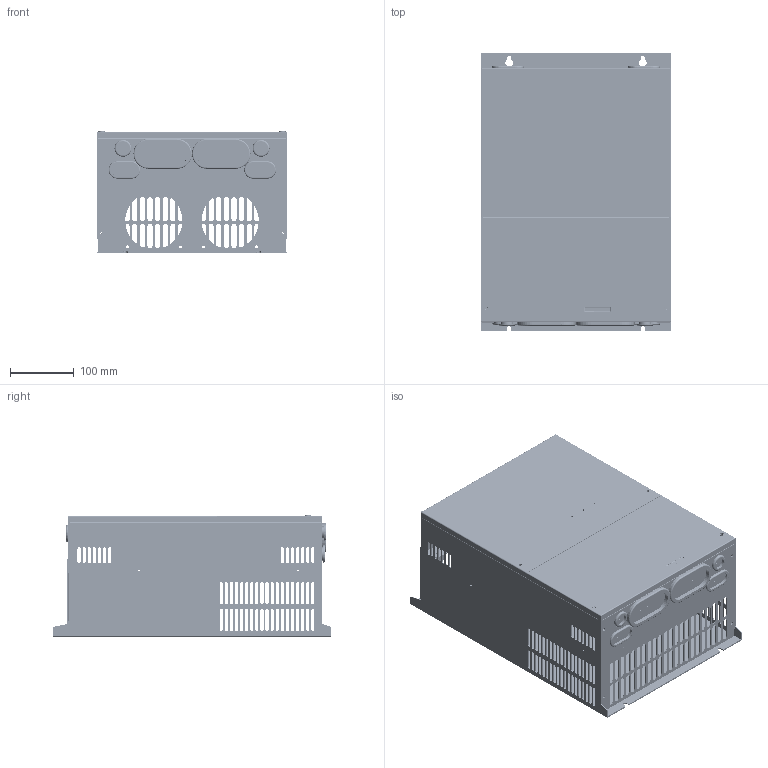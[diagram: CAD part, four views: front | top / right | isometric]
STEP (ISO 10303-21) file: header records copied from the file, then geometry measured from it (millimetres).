
FILE_DESCRIPTION((''),'2;1');
FILE_NAME('GD300-21-037G-4_ASM_ASM','2016-03-10T',('Administrator'),(''),'PRO/ENGINEER BY PARAMETRIC TECHNOLOGY CORPORATION, 2010100','PRO/ENGINEER BY PARAMETRIC TECHNOLOGY CORPORATION, 2010100','');
FILE_SCHEMA(('CONFIG_CONTROL_DESIGN'));
Products named in the file (32): 80350356_1; S-M4-ZC_1; 80350356_ASM_1_ASM; 80310400_1; S-M5-ZC_1; 80310400_ASM_1_ASM; 80383514_AF0_1; 80383514_ASM_2_ASM; 61060706_ASM_1_ASM; 86050743_1; YMD-55-0D8-SL_1; 86050743_ASM_1_ASM; 86050741_1; 86050741_ASM_1_ASM; 80383520_1; 80383520_ASM_1_ASM; 40800688_ASM_1_ASM; 39004-00040_1; 39004-00035_1; 39004-00033_1; TB2200-00-HOUSING-3_1; TB2200-00-TERMINAL_1; M6-LONMU-S10_1; M6NUT-FIXER_1; MANIFOLD_SOLID_BREP_493_1; MANIFOLD_SOLID_BREP_494_1; MANIFOLD_SOLID_BREP_495_1; M6X20_ASM_1_ASM; TB2200-00-LUCENCY-3_1; TB2200-00-ASM-3_ASM_1_ASM; GD300-21-037G-4_ASM_1_ASM; GD300-21-037G-4_ASM_ASM
Assembly tree (60 placements, depth 6):
  GD300-21-037G-4_ASM_ASM
    GD300-21-037G-4_ASM_1_ASM
      40800688_ASM_1_ASM
        61060706_ASM_1_ASM
          80350356_ASM_1_ASM
            80350356_1
            S-M4-ZC_1  x6
          80310400_ASM_1_ASM
            80310400_1
            S-M5-ZC_1  x4
          80383514_ASM_2_ASM
            80383514_AF0_1
        86050743_ASM_1_ASM
          86050743_1
          YMD-55-0D8-SL_1  x2
        86050741_ASM_1_ASM
          86050741_1
          YMD-55-0D8-SL_1  x2
        80383520_ASM_1_ASM
          80383520_1
          YMD-55-0D8-SL_1  x2
          S-M5-ZC_1  x2
      39004-00040_1  x4
      39004-00035_1  x2
      39004-00033_1  x2
      TB2200-00-ASM-3_ASM_1_ASM  x2
        TB2200-00-HOUSING-3_1
        TB2200-00-TERMINAL_1
        M6-LONMU-S10_1
        M6NUT-FIXER_1
        M6X20_ASM_1_ASM
          MANIFOLD_SOLID_BREP_493_1
          MANIFOLD_SOLID_BREP_494_1
          MANIFOLD_SOLID_BREP_495_1
        TB2200-00-LUCENCY-3_1
Bounding box: 300 x 438 x 190.5 mm (x, y, z)
Volume: 744452.6 mm3; surface area: 1169815.7 mm2
Topology: 72 solids, 72 shells, 7420 faces, 20906 edges, 13838 vertices
Faces by surface type: plane 5516, cylinder 1502, cone 234, torus 108, bspline 56, sphere 4
Entity records: 87654 total; most frequent: CARTESIAN_POINT 19946, ORIENTED_EDGE 14118, DIRECTION 13644, EDGE_CURVE 7059, VECTOR 5282, LINE 5282, VERTEX_POINT 4611, AXIS2_PLACEMENT_3D 4181
